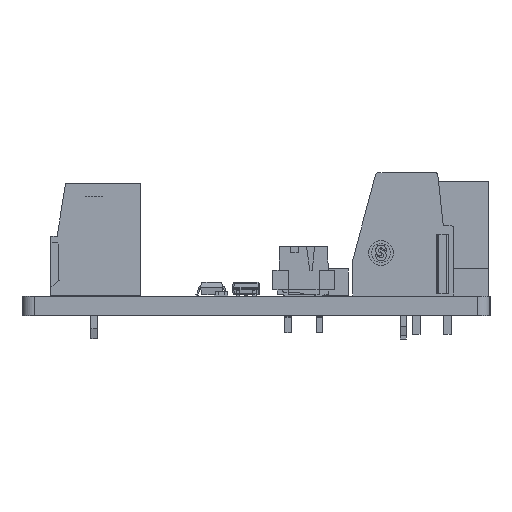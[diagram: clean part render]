
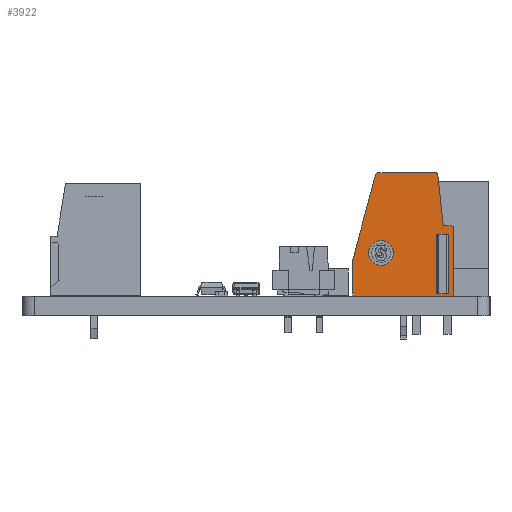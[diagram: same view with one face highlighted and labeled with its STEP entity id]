
A CAD part, left-side view. The second image highlights one B-rep face of the part: STEP entity #3922.
In plain terms, the highlighted planar face has unit normal (-1, 0, 0) as drawn and (0, 0, 1) by its records, which use the part's own axes.
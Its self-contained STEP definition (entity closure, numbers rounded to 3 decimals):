
#3783 = VERTEX_POINT('',#3784);
#3784 = CARTESIAN_POINT('',(-4.4,-0.2,10.));
#3790 = EDGE_CURVE('',#3783,#3791,#3793,.T.);
#3791 = VERTEX_POINT('',#3792);
#3792 = CARTESIAN_POINT('',(3.8,-0.2,10.));
#3793 = LINE('',#3794,#3795);
#3794 = CARTESIAN_POINT('',(-4.4,-0.2,10.));
#3795 = VECTOR('',#3796,1.);
#3796 = DIRECTION('',(1.,0.,0.));
#3902 = EDGE_CURVE('',#3783,#3903,#3905,.T.);
#3903 = VERTEX_POINT('',#3904);
#3904 = CARTESIAN_POINT('',(-4.4,2.709,10.));
#3905 = LINE('',#3906,#3907);
#3906 = CARTESIAN_POINT('',(-4.4,-0.2,10.));
#3907 = VECTOR('',#3908,1.);
#3908 = DIRECTION('',(0.,1.,0.));
#3922 = ADVANCED_FACE('',(#3923,#3992,#4026),#4046,.T.);
#3923 = FACE_BOUND('',#3924,.F.);
#3924 = EDGE_LOOP('',(#3925,#3933,#3934,#3935,#3943,#3952,#3960,#3969,
    #3977,#3985));
#3925 = ORIENTED_EDGE('',*,*,#3926,.T.);
#3926 = EDGE_CURVE('',#3927,#3791,#3929,.T.);
#3927 = VERTEX_POINT('',#3928);
#3928 = CARTESIAN_POINT('',(3.8,5.3,10.));
#3929 = LINE('',#3930,#3931);
#3930 = CARTESIAN_POINT('',(3.8,5.3,10.));
#3931 = VECTOR('',#3932,1.);
#3932 = DIRECTION('',(0.,-1.,0.));
#3933 = ORIENTED_EDGE('',*,*,#3790,.F.);
#3934 = ORIENTED_EDGE('',*,*,#3902,.T.);
#3935 = ORIENTED_EDGE('',*,*,#3936,.F.);
#3936 = EDGE_CURVE('',#3937,#3903,#3939,.T.);
#3937 = VERTEX_POINT('',#3938);
#3938 = CARTESIAN_POINT('',(-2.54,9.652,10.));
#3939 = LINE('',#3940,#3941);
#3940 = CARTESIAN_POINT('',(-2.54,9.652,10.));
#3941 = VECTOR('',#3942,1.);
#3942 = DIRECTION('',(-0.259,-0.966,0.));
#3943 = ORIENTED_EDGE('',*,*,#3944,.F.);
#3944 = EDGE_CURVE('',#3945,#3937,#3947,.T.);
#3945 = VERTEX_POINT('',#3946);
#3946 = CARTESIAN_POINT('',(-2.347,9.8,10.));
#3947 = CIRCLE('',#3948,0.2);
#3948 = AXIS2_PLACEMENT_3D('',#3949,#3950,#3951);
#3949 = CARTESIAN_POINT('',(-2.347,9.6,10.));
#3950 = DIRECTION('',(0.,0.,1.));
#3951 = DIRECTION('',(0.,1.,0.));
#3952 = ORIENTED_EDGE('',*,*,#3953,.F.);
#3953 = EDGE_CURVE('',#3954,#3945,#3956,.T.);
#3954 = VERTEX_POINT('',#3955);
#3955 = CARTESIAN_POINT('',(2.32,9.8,10.));
#3956 = LINE('',#3957,#3958);
#3957 = CARTESIAN_POINT('',(2.32,9.8,10.));
#3958 = VECTOR('',#3959,1.);
#3959 = DIRECTION('',(-1.,0.,0.));
#3960 = ORIENTED_EDGE('',*,*,#3961,.F.);
#3961 = EDGE_CURVE('',#3962,#3954,#3964,.T.);
#3962 = VERTEX_POINT('',#3963);
#3963 = CARTESIAN_POINT('',(2.519,9.621,10.));
#3964 = CIRCLE('',#3965,0.2);
#3965 = AXIS2_PLACEMENT_3D('',#3966,#3967,#3968);
#3966 = CARTESIAN_POINT('',(2.32,9.6,10.));
#3967 = DIRECTION('',(0.,0.,1.));
#3968 = DIRECTION('',(0.995,0.105,0.));
#3969 = ORIENTED_EDGE('',*,*,#3970,.F.);
#3970 = EDGE_CURVE('',#3971,#3962,#3973,.T.);
#3971 = VERTEX_POINT('',#3972);
#3972 = CARTESIAN_POINT('',(2.952,5.5,10.));
#3973 = LINE('',#3974,#3975);
#3974 = CARTESIAN_POINT('',(2.952,5.5,10.));
#3975 = VECTOR('',#3976,1.);
#3976 = DIRECTION('',(-0.105,0.995,0.));
#3977 = ORIENTED_EDGE('',*,*,#3978,.F.);
#3978 = EDGE_CURVE('',#3979,#3971,#3981,.T.);
#3979 = VERTEX_POINT('',#3980);
#3980 = CARTESIAN_POINT('',(3.6,5.5,10.));
#3981 = LINE('',#3982,#3983);
#3982 = CARTESIAN_POINT('',(3.6,5.5,10.));
#3983 = VECTOR('',#3984,1.);
#3984 = DIRECTION('',(-1.,0.,0.));
#3985 = ORIENTED_EDGE('',*,*,#3986,.F.);
#3986 = EDGE_CURVE('',#3927,#3979,#3987,.T.);
#3987 = CIRCLE('',#3988,0.2);
#3988 = AXIS2_PLACEMENT_3D('',#3989,#3990,#3991);
#3989 = CARTESIAN_POINT('',(3.6,5.3,10.));
#3990 = DIRECTION('',(0.,0.,1.));
#3991 = DIRECTION('',(1.,0.,0.));
#3992 = FACE_BOUND('',#3993,.F.);
#3993 = EDGE_LOOP('',(#3994,#4004,#4012,#4020));
#3994 = ORIENTED_EDGE('',*,*,#3995,.F.);
#3995 = EDGE_CURVE('',#3996,#3998,#4000,.T.);
#3996 = VERTEX_POINT('',#3997);
#3997 = CARTESIAN_POINT('',(2.5,0.,10.));
#3998 = VERTEX_POINT('',#3999);
#3999 = CARTESIAN_POINT('',(2.5,4.8,10.));
#4000 = LINE('',#4001,#4002);
#4001 = CARTESIAN_POINT('',(2.5,0.,10.));
#4002 = VECTOR('',#4003,1.);
#4003 = DIRECTION('',(0.,1.,0.));
#4004 = ORIENTED_EDGE('',*,*,#4005,.T.);
#4005 = EDGE_CURVE('',#3996,#4006,#4008,.T.);
#4006 = VERTEX_POINT('',#4007);
#4007 = CARTESIAN_POINT('',(3.3,0.,10.));
#4008 = LINE('',#4009,#4010);
#4009 = CARTESIAN_POINT('',(2.5,0.,10.));
#4010 = VECTOR('',#4011,1.);
#4011 = DIRECTION('',(1.,0.,0.));
#4012 = ORIENTED_EDGE('',*,*,#4013,.T.);
#4013 = EDGE_CURVE('',#4006,#4014,#4016,.T.);
#4014 = VERTEX_POINT('',#4015);
#4015 = CARTESIAN_POINT('',(3.3,4.8,10.));
#4016 = LINE('',#4017,#4018);
#4017 = CARTESIAN_POINT('',(3.3,0.,10.));
#4018 = VECTOR('',#4019,1.);
#4019 = DIRECTION('',(0.,1.,0.));
#4020 = ORIENTED_EDGE('',*,*,#4021,.F.);
#4021 = EDGE_CURVE('',#3998,#4014,#4022,.T.);
#4022 = LINE('',#4023,#4024);
#4023 = CARTESIAN_POINT('',(2.5,4.8,10.));
#4024 = VECTOR('',#4025,1.);
#4025 = DIRECTION('',(1.,0.,0.));
#4026 = FACE_BOUND('',#4027,.F.);
#4027 = EDGE_LOOP('',(#4028,#4039));
#4028 = ORIENTED_EDGE('',*,*,#4029,.T.);
#4029 = EDGE_CURVE('',#4030,#4032,#4034,.T.);
#4030 = VERTEX_POINT('',#4031);
#4031 = CARTESIAN_POINT('',(-1.1,3.3,10.));
#4032 = VERTEX_POINT('',#4033);
#4033 = CARTESIAN_POINT('',(-3.1,3.3,10.));
#4034 = CIRCLE('',#4035,1.);
#4035 = AXIS2_PLACEMENT_3D('',#4036,#4037,#4038);
#4036 = CARTESIAN_POINT('',(-2.1,3.3,10.));
#4037 = DIRECTION('',(0.,0.,1.));
#4038 = DIRECTION('',(1.,0.,0.));
#4039 = ORIENTED_EDGE('',*,*,#4040,.T.);
#4040 = EDGE_CURVE('',#4032,#4030,#4041,.T.);
#4041 = CIRCLE('',#4042,1.);
#4042 = AXIS2_PLACEMENT_3D('',#4043,#4044,#4045);
#4043 = CARTESIAN_POINT('',(-2.1,3.3,10.));
#4044 = DIRECTION('',(0.,0.,1.));
#4045 = DIRECTION('',(-1.,0.,0.));
#4046 = PLANE('',#4047);
#4047 = AXIS2_PLACEMENT_3D('',#4048,#4049,#4050);
#4048 = CARTESIAN_POINT('',(0.,0.,10.));
#4049 = DIRECTION('',(0.,0.,1.));
#4050 = DIRECTION('',(1.,0.,0.));
